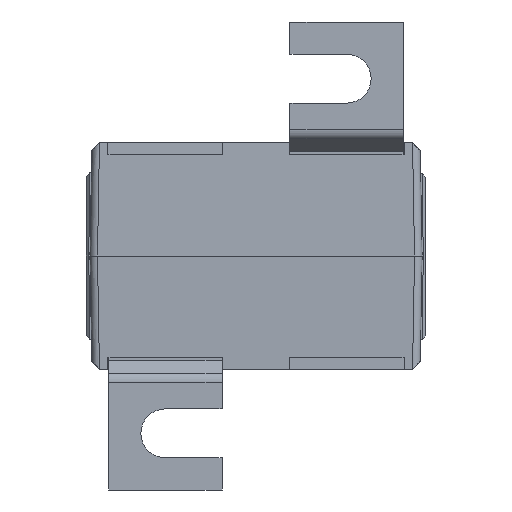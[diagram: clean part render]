
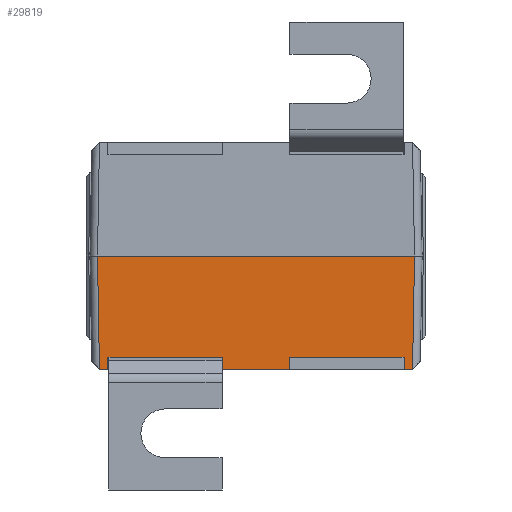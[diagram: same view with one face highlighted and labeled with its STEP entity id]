
A CAD part, front view. The second image highlights one B-rep face of the part: STEP entity #29819.
In plain terms, the highlighted planar face has unit normal (0, -1, -0.018) as drawn and (0, -1, 0.017) by its records, which use the part's own axes.
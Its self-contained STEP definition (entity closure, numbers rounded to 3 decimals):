
#19606 = VECTOR ( 'NONE', #19638, 1000. ) ;
#19620 = CARTESIAN_POINT ( 'NONE',  ( -21., -27., 0. ) ) ;
#19631 = LINE ( 'NONE', #19639, #19606 ) ;
#19638 = DIRECTION ( 'NONE',  ( 1., 0., 0. ) ) ;
#19639 = CARTESIAN_POINT ( 'NONE',  ( -22., -27., 0. ) ) ;
#19640 = CARTESIAN_POINT ( 'NONE',  ( 21., -27., 0. ) ) ;
#21622 = VECTOR ( 'NONE', #21638, 1000. ) ;
#21638 = DIRECTION ( 'NONE',  ( 1., 0., 0. ) ) ;
#21653 = CARTESIAN_POINT ( 'NONE',  ( -22., -26.738, 15. ) ) ;
#22333 = CARTESIAN_POINT ( 'NONE',  ( -20.72, -26.738, 15. ) ) ;
#22395 = LINE ( 'NONE', #21653, #21622 ) ;
#22480 = CARTESIAN_POINT ( 'NONE',  ( -22., -26.738, 15. ) ) ;
#22481 = LINE ( 'NONE', #22480, #22528 ) ;
#22490 = CARTESIAN_POINT ( 'NONE',  ( -4.378, -26.738, 15. ) ) ;
#22510 = DIRECTION ( 'NONE',  ( 1., 0., 0. ) ) ;
#22511 = VECTOR ( 'NONE', #22510, 1000. ) ;
#22512 = CARTESIAN_POINT ( 'NONE',  ( -22., -26.738, 15. ) ) ;
#22513 = LINE ( 'NONE', #22512, #22511 ) ;
#22525 = CARTESIAN_POINT ( 'NONE',  ( 4.378, -26.738, 15. ) ) ;
#22527 = DIRECTION ( 'NONE',  ( 1., 0., 0. ) ) ;
#22528 = VECTOR ( 'NONE', #22527, 1000. ) ;
#22558 = CARTESIAN_POINT ( 'NONE',  ( 19.622, -26.738, 15. ) ) ;
#22559 = CARTESIAN_POINT ( 'NONE',  ( 20.72, -26.738, 15. ) ) ;
#22562 = CARTESIAN_POINT ( 'NONE',  ( -19.622, -26.738, 15. ) ) ;
#22801 = CARTESIAN_POINT ( 'NONE',  ( 20.987, -26.987, 0.75 ) ) ;
#22802 = LINE ( 'NONE', #22801, #22859 ) ;
#22803 = DIRECTION ( 'NONE',  ( -0.719, -0.012, -0.695 ) ) ;
#22804 = VECTOR ( 'NONE', #22803, 1000. ) ;
#22805 = CARTESIAN_POINT ( 'NONE',  ( 20.739, -26.738, 14.982 ) ) ;
#22807 = CARTESIAN_POINT ( 'NONE',  ( -20.16, -26.729, 15.541 ) ) ;
#22808 = LINE ( 'NONE', #22807, #22804 ) ;
#22809 = DIRECTION ( 'NONE',  ( -0.017, -0.017, -1. ) ) ;
#22810 = VECTOR ( 'NONE', #22809, 1000. ) ;
#22811 = CARTESIAN_POINT ( 'NONE',  ( -21., -27., -0.017 ) ) ;
#22812 = LINE ( 'NONE', #22811, #22810 ) ;
#22817 = DIRECTION ( 'NONE',  ( 0., -0.017, -1. ) ) ;
#22818 = DIRECTION ( 'NONE',  ( 0., -1., 0.017 ) ) ;
#22819 = FACE_OUTER_BOUND ( 'NONE', #29842, .T. ) ;
#22824 = PLANE ( 'NONE',  #22825 ) ;
#22825 = AXIS2_PLACEMENT_3D ( 'NONE', #22827, #22818, #22817 ) ;
#22827 = CARTESIAN_POINT ( 'NONE',  ( -22., -27., 0. ) ) ;
#22837 = CARTESIAN_POINT ( 'NONE',  ( 19.608, -26.766, 13.4 ) ) ;
#22854 = CARTESIAN_POINT ( 'NONE',  ( -19.608, -26.766, 13.4 ) ) ;
#22856 = CARTESIAN_POINT ( 'NONE',  ( -20.739, -26.738, 14.982 ) ) ;
#22858 = DIRECTION ( 'NONE',  ( -0.017, 0.017, 1. ) ) ;
#22859 = VECTOR ( 'NONE', #22858, 1000. ) ;
#22897 = DIRECTION ( 'NONE',  ( 1., 0., 0. ) ) ;
#22898 = CARTESIAN_POINT ( 'NONE',  ( -22., -26.766, 13.4 ) ) ;
#22899 = LINE ( 'NONE', #22898, #22976 ) ;
#22902 = DIRECTION ( 'NONE',  ( 0.009, 0.017, 1. ) ) ;
#22903 = VECTOR ( 'NONE', #22902, 1000. ) ;
#22904 = CARTESIAN_POINT ( 'NONE',  ( -4.51, -27.003, -0.153 ) ) ;
#22909 = LINE ( 'NONE', #22904, #22903 ) ;
#22923 = CARTESIAN_POINT ( 'NONE',  ( 20.16, -26.729, 15.541 ) ) ;
#22924 = LINE ( 'NONE', #22923, #22953 ) ;
#22951 = DIRECTION ( 'NONE',  ( -0.719, 0.012, 0.695 ) ) ;
#22953 = VECTOR ( 'NONE', #22951, 1000. ) ;
#22959 = DIRECTION ( 'NONE',  ( 0.009, -0.017, -1. ) ) ;
#22960 = VECTOR ( 'NONE', #22959, 1000. ) ;
#22972 = CARTESIAN_POINT ( 'NONE',  ( -19.491, -27., 0.022 ) ) ;
#22973 = LINE ( 'NONE', #22972, #22960 ) ;
#22976 = VECTOR ( 'NONE', #22897, 1000. ) ;
#22983 = DIRECTION ( 'NONE',  ( 0.009, -0.017, -1. ) ) ;
#22984 = VECTOR ( 'NONE', #22983, 1000. ) ;
#22985 = CARTESIAN_POINT ( 'NONE',  ( 4.507, -26.996, 0.231 ) ) ;
#22990 = DIRECTION ( 'NONE',  ( -1., 0., 0. ) ) ;
#22991 = VECTOR ( 'NONE', #22990, 1000. ) ;
#22992 = CARTESIAN_POINT ( 'NONE',  ( -22., -26.766, 13.4 ) ) ;
#22993 = CARTESIAN_POINT ( 'NONE',  ( -4.392, -26.766, 13.4 ) ) ;
#22996 = DIRECTION ( 'NONE',  ( 0.009, 0.017, 1. ) ) ;
#22997 = VECTOR ( 'NONE', #22996, 1000. ) ;
#22998 = CARTESIAN_POINT ( 'NONE',  ( 19.488, -27.006, -0.362 ) ) ;
#22999 = LINE ( 'NONE', #22998, #22997 ) ;
#23000 = LINE ( 'NONE', #22992, #22991 ) ;
#23001 = LINE ( 'NONE', #22985, #22984 ) ;
#23003 = CARTESIAN_POINT ( 'NONE',  ( 4.392, -26.766, 13.4 ) ) ;
#27628 = VERTEX_POINT ( 'NONE', #19620 ) ;
#27653 = VERTEX_POINT ( 'NONE', #19640 ) ;
#27656 = EDGE_CURVE ( 'NONE', #27628, #27653, #19631, .T. ) ;
#29452 = VERTEX_POINT ( 'NONE', #22333 ) ;
#29486 = EDGE_CURVE ( 'NONE', #29598, #29600, #22395, .T. ) ;
#29533 = VERTEX_POINT ( 'NONE', #22490 ) ;
#29554 = EDGE_CURVE ( 'NONE', #29533, #29563, #22481, .T. ) ;
#29563 = VERTEX_POINT ( 'NONE', #22525 ) ;
#29572 = EDGE_CURVE ( 'NONE', #29452, #29584, #22513, .T. ) ;
#29584 = VERTEX_POINT ( 'NONE', #22562 ) ;
#29598 = VERTEX_POINT ( 'NONE', #22558 ) ;
#29600 = VERTEX_POINT ( 'NONE', #22559 ) ;
#29817 = ORIENTED_EDGE ( 'NONE', *, *, #29925, .F. ) ;
#29819 = ADVANCED_FACE ( 'NONE', ( #22819 ), #22824, .T. ) ;
#29820 = EDGE_CURVE ( 'NONE', #29835, #27628, #22812, .T. ) ;
#29822 = EDGE_CURVE ( 'NONE', #29452, #29835, #22808, .T. ) ;
#29827 = EDGE_CURVE ( 'NONE', #27653, #29834, #22802, .T. ) ;
#29829 = ORIENTED_EDGE ( 'NONE', *, *, #29820, .T. ) ;
#29831 = ORIENTED_EDGE ( 'NONE', *, *, #29931, .T. ) ;
#29833 = ORIENTED_EDGE ( 'NONE', *, *, #29827, .T. ) ;
#29834 = VERTEX_POINT ( 'NONE', #22805 ) ;
#29835 = VERTEX_POINT ( 'NONE', #22856 ) ;
#29842 = EDGE_LOOP ( 'NONE', ( #29877, #29829, #29853, #29833, #29831, #29943, #29941, #29939, #29959, #29957, #29919, #29944, #29817, #29964 ) ) ;
#29849 = VERTEX_POINT ( 'NONE', #22837 ) ;
#29853 = ORIENTED_EDGE ( 'NONE', *, *, #27656, .T. ) ;
#29877 = ORIENTED_EDGE ( 'NONE', *, *, #29822, .T. ) ;
#29914 = VERTEX_POINT ( 'NONE', #22854 ) ;
#29917 = EDGE_CURVE ( 'NONE', #29946, #29533, #22909, .T. ) ;
#29919 = ORIENTED_EDGE ( 'NONE', *, *, #29917, .F. ) ;
#29921 = EDGE_CURVE ( 'NONE', #29914, #29946, #22899, .T. ) ;
#29925 = EDGE_CURVE ( 'NONE', #29584, #29914, #22973, .T. ) ;
#29931 = EDGE_CURVE ( 'NONE', #29834, #29600, #22924, .T. ) ;
#29938 = EDGE_CURVE ( 'NONE', #29849, #29598, #22999, .T. ) ;
#29939 = ORIENTED_EDGE ( 'NONE', *, *, #29945, .T. ) ;
#29941 = ORIENTED_EDGE ( 'NONE', *, *, #29938, .F. ) ;
#29943 = ORIENTED_EDGE ( 'NONE', *, *, #29486, .F. ) ;
#29944 = ORIENTED_EDGE ( 'NONE', *, *, #29921, .F. ) ;
#29945 = EDGE_CURVE ( 'NONE', #29849, #29949, #23000, .T. ) ;
#29946 = VERTEX_POINT ( 'NONE', #22993 ) ;
#29949 = VERTEX_POINT ( 'NONE', #23003 ) ;
#29951 = EDGE_CURVE ( 'NONE', #29563, #29949, #23001, .T. ) ;
#29957 = ORIENTED_EDGE ( 'NONE', *, *, #29554, .F. ) ;
#29959 = ORIENTED_EDGE ( 'NONE', *, *, #29951, .F. ) ;
#29964 = ORIENTED_EDGE ( 'NONE', *, *, #29572, .F. ) ;
